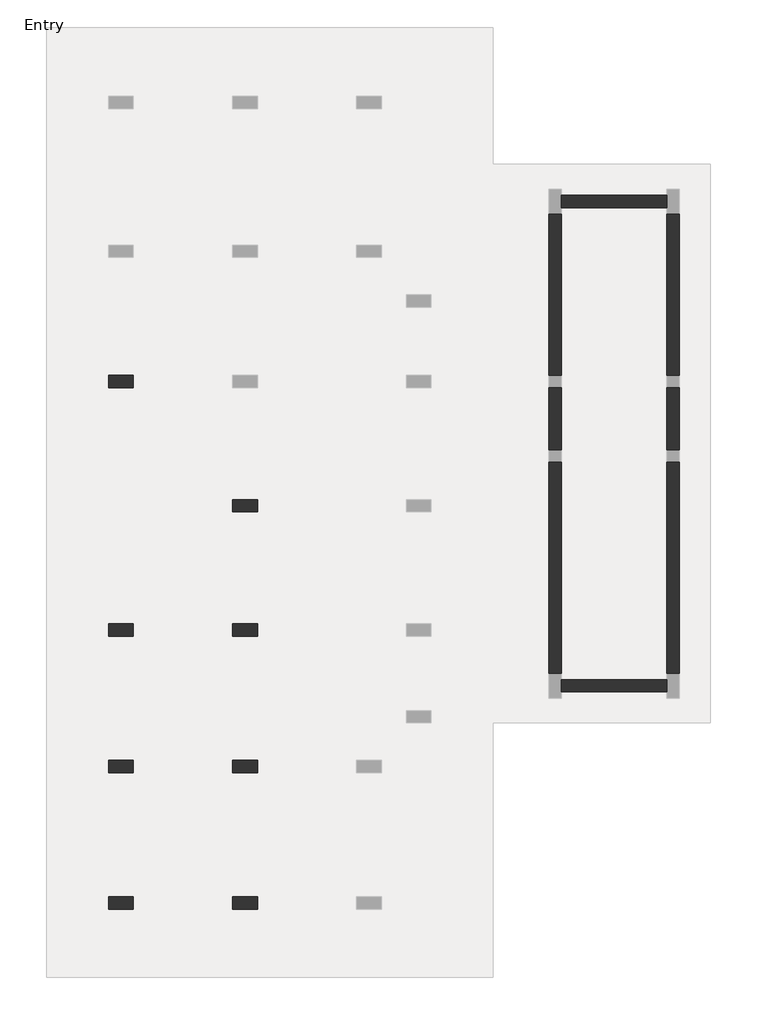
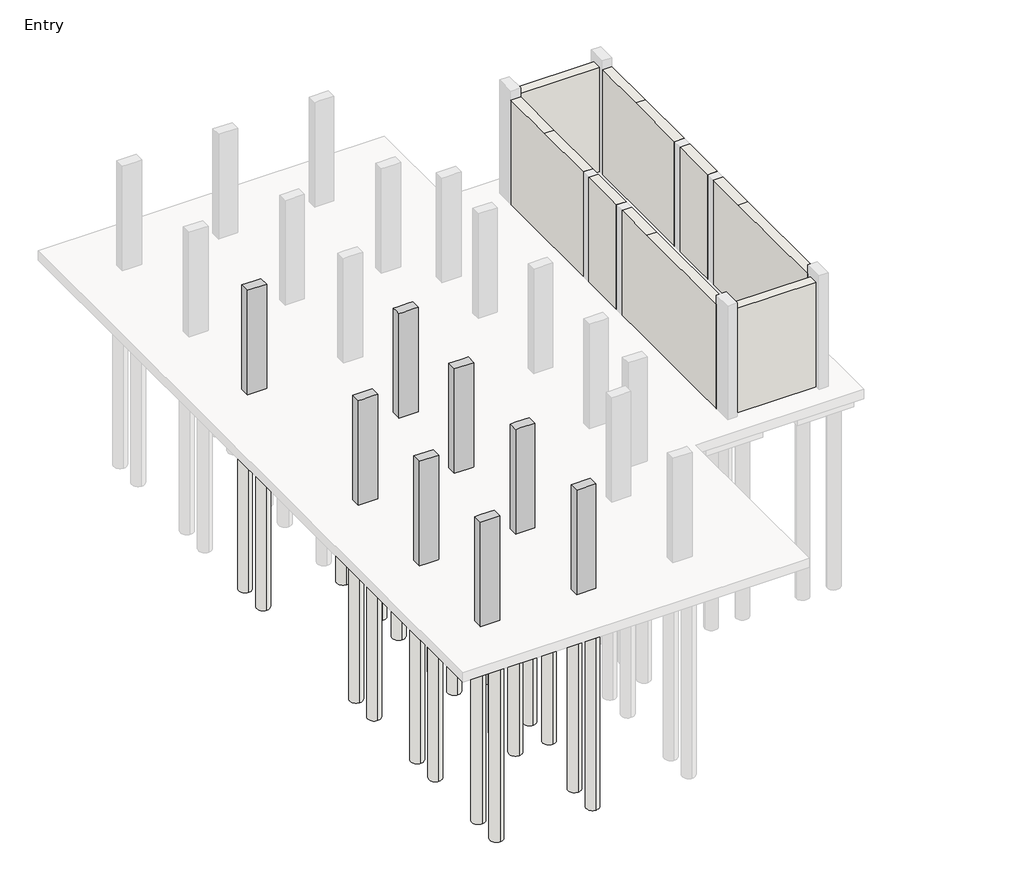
# One storey, part 1 of 3: 31 slabs, 8 columns, 8 walls.
"""IFC4 building model written with IfcOpenShell, lengths in millimetres."""

from ifc_helpers import new_model, si_unit, point, frame, frame_2d, origin, origin_with_axes, place, context, project, spatial, polyline, circle_curve, trimmed, segment, composite_curve, outline, extrude, faceted_brep, element, save

model = new_model("IFC4")

# Units and contexts
model_context = context("Model", 3, world=origin())
ifc_project = project(units=[si_unit("LENGTHUNIT", "METRE", prefix="MILLI")], contexts=[model_context])

# Site, building, storey
site = spatial("IfcSite", under=ifc_project)
building = spatial("IfcBuilding", under=site)
storey = spatial("IfcBuildingStorey", under=building, Name="Entry", Elevation=0.0)

# Columns
placement = place(None, origin())
element("IfcColumn", 1, ObjectType="Concrete-Rectangular-Column : 12 x 24", at=placement, inside=storey, context=model_context, shape_type="Brep", body=[
    faceted_brep([(-20960.8093661, 15543.5691779, 0.0), (-20351.2093661, 15543.5691779, 0.0), (-20351.2093661, 15238.7691779, 0.0), (-20960.8093661, 15238.7691779, 0.0), (-20960.8093661, 15543.5691779, 3505.2), (-20808.4093661, 15543.5691779, 3505.2), (-20503.6093661, 15543.5691779, 3505.2), (-20351.2093661, 15543.5691779, 3505.2), (-20351.2093661, 15543.5691779, 2895.6), (-20351.2093661, 15238.7691779, 3505.2), (-20351.2093661, 15238.7691779, 2895.6), (-20960.8093661, 15238.7691779, 3505.2)], [[[0, 1, 2, 3]], [[4, 5, 6, 7, 8, 1, 0]], [[7, 9, 10, 2, 1, 8]], [[9, 11, 3, 2, 10]], [[11, 4, 0, 3]], [[4, 11, 9, 7, 6, 5]]]),
])
element("IfcColumn", 2, ObjectType="Concrete-Rectangular-Column : 12 x 24", at=placement, inside=storey, context=model_context, shape_type="Brep", body=[
    faceted_brep([(-17912.8093661, 12495.5691779, 0.0), (-17303.2093661, 12495.5691779, 0.0), (-17303.2093661, 12190.7691779, 0.0), (-17912.8093661, 12190.7691779, 0.0), (-17912.8093661, 12495.5691779, 3505.2), (-17760.4093661, 12495.5691779, 3505.2), (-17455.6093661, 12495.5691779, 3505.2), (-17303.2093661, 12495.5691779, 3505.2), (-17303.2093661, 12495.5691779, 2895.6), (-17303.2093661, 12190.7691779, 3505.2), (-17303.2093661, 12190.7691779, 2895.6), (-17455.6093661, 12190.7691779, 3505.2), (-17760.4093661, 12190.7691779, 3505.2), (-17912.8093661, 12190.7691779, 3505.2), (-17912.8093661, 12343.1691779, 3505.2)], [[[0, 1, 2, 3]], [[4, 5, 6, 7, 8, 1, 0]], [[7, 9, 10, 2, 1, 8]], [[9, 11, 12, 13, 3, 2, 10]], [[13, 14, 4, 0, 3]], [[4, 14, 13, 12, 11, 9, 7, 6, 5]]]),
])
element("IfcColumn", 3, ObjectType="Concrete-Rectangular-Column : 12 x 24", at=placement, inside=storey, context=model_context, shape_type="Brep", body=[
    faceted_brep([(-20960.8093661, 9447.5691779, 0.0), (-20351.2093661, 9447.5691779, 0.0), (-20351.2093661, 9142.7691779, 0.0), (-20960.8093661, 9142.7691779, 0.0), (-20960.8093661, 9447.5691779, 3505.2), (-20351.2093661, 9447.5691779, 3505.2), (-20351.2093661, 9447.5691779, 2895.6), (-20351.2093661, 9142.7691779, 3505.2), (-20351.2093661, 9142.7691779, 2895.6), (-20503.6093661, 9142.7691779, 3505.2), (-20808.4093661, 9142.7691779, 3505.2), (-20960.8093661, 9142.7691779, 3505.2)], [[[0, 1, 2, 3]], [[4, 5, 6, 1, 0]], [[5, 7, 8, 2, 1, 6]], [[7, 9, 10, 11, 3, 2, 8]], [[11, 4, 0, 3]], [[4, 11, 10, 9, 7, 5]]]),
])
element("IfcColumn", 4, ObjectType="Concrete-Rectangular-Column : 12 x 24", at=placement, inside=storey, context=model_context, shape_type="Brep", body=[
    faceted_brep([(-17912.8093661, 9447.5691779, 0.0), (-17303.2093661, 9447.5691779, 0.0), (-17303.2093661, 9142.7691779, 0.0), (-17912.8093661, 9142.7691779, 0.0), (-17912.8093661, 9447.5691779, 3505.2), (-17760.4093661, 9447.5691779, 3505.2), (-17455.6093661, 9447.5691779, 3505.2), (-17303.2093661, 9447.5691779, 3505.2), (-17303.2093661, 9447.5691779, 2895.6), (-17912.8093661, 9447.5691779, 2895.6), (-17303.2093661, 9142.7691779, 3505.2), (-17303.2093661, 9142.7691779, 2895.6), (-17455.6093661, 9142.7691779, 3505.2), (-17760.4093661, 9142.7691779, 3505.2), (-17912.8093661, 9142.7691779, 3505.2), (-17912.8093661, 9142.7691779, 2895.6)], [[[0, 1, 2, 3]], [[4, 5, 6, 7, 8, 1, 0, 9]], [[7, 10, 11, 2, 1, 8]], [[10, 12, 13, 14, 15, 3, 2, 11]], [[14, 4, 9, 0, 3, 15]], [[4, 14, 13, 12, 10, 7, 6, 5]]]),
])
element("IfcColumn", 5, ObjectType="Concrete-Rectangular-Column : 12 x 24", at=placement, inside=storey, context=model_context, shape_type="Brep", body=[
    faceted_brep([(-20960.8093661, 2741.9691779, 0.0), (-20351.2093661, 2741.9691779, 0.0), (-20351.2093661, 2437.1691779, 0.0), (-20960.8093661, 2437.1691779, 0.0), (-20960.8093661, 2741.9691779, 3505.2), (-20808.4093661, 2741.9691779, 3505.2), (-20503.6093661, 2741.9691779, 3505.2), (-20351.2093661, 2741.9691779, 3505.2), (-20351.2093661, 2741.9691779, 2895.6), (-20351.2093661, 2437.1691779, 3505.2), (-20351.2093661, 2437.1691779, 2895.6), (-20960.8093661, 2437.1691779, 3505.2)], [[[0, 1, 2, 3]], [[4, 5, 6, 7, 8, 1, 0]], [[7, 9, 10, 2, 1, 8]], [[9, 11, 3, 2, 10]], [[11, 4, 0, 3]], [[4, 11, 9, 7, 6, 5]]]),
])
element("IfcColumn", 6, ObjectType="Concrete-Rectangular-Column : 12 x 24", at=placement, inside=storey, context=model_context, shape_type="Brep", body=[
    faceted_brep([(-17912.8093661, 2741.9691779, 0.0), (-17303.2093661, 2741.9691779, 0.0), (-17303.2093661, 2437.1691779, 0.0), (-17912.8093661, 2437.1691779, 0.0), (-17912.8093661, 2741.9691779, 3505.2), (-17760.4093661, 2741.9691779, 3505.2), (-17455.6093661, 2741.9691779, 3505.2), (-17303.2093661, 2741.9691779, 3505.2), (-17303.2093661, 2741.9691779, 2895.6), (-17912.8093661, 2741.9691779, 2895.6), (-17303.2093661, 2437.1691779, 3505.2), (-17303.2093661, 2437.1691779, 2895.6), (-17912.8093661, 2437.1691779, 3505.2), (-17912.8093661, 2437.1691779, 2895.6)], [[[0, 1, 2, 3]], [[4, 5, 6, 7, 8, 1, 0, 9]], [[7, 10, 11, 2, 1, 8]], [[10, 12, 13, 3, 2, 11]], [[12, 4, 9, 0, 3, 13]], [[4, 12, 10, 7, 6, 5]]]),
])
element("IfcColumn", 7, ObjectType="Concrete-Rectangular-Column : 12 x 24", at=placement, inside=storey, context=model_context, shape_type="Brep", body=[
    faceted_brep([(-20960.8093661, 6094.7691779, 0.0), (-20351.2093661, 6094.7691779, 0.0), (-20351.2093661, 5789.9691779, 0.0), (-20960.8093661, 5789.9691779, 0.0), (-20960.8093661, 6094.7691779, 3505.2), (-20808.4093661, 6094.7691779, 3505.2), (-20503.6093661, 6094.7691779, 3505.2), (-20351.2093661, 6094.7691779, 3505.2), (-20351.2093661, 6094.7691779, 2895.6), (-20351.2093661, 5789.9691779, 3505.2), (-20351.2093661, 5789.9691779, 2895.6), (-20503.6093661, 5789.9691779, 3505.2), (-20808.4093661, 5789.9691779, 3505.2), (-20960.8093661, 5789.9691779, 3505.2)], [[[0, 1, 2, 3]], [[4, 5, 6, 7, 8, 1, 0]], [[7, 9, 10, 2, 1, 8]], [[9, 11, 12, 13, 3, 2, 10]], [[13, 4, 0, 3]], [[4, 13, 12, 11, 9, 7, 6, 5]]]),
])
element("IfcColumn", 8, ObjectType="Concrete-Rectangular-Column : 12 x 24", at=placement, inside=storey, context=model_context, shape_type="Brep", body=[
    faceted_brep([(-17912.8093661, 6094.7691779, 0.0), (-17303.2093661, 6094.7691779, 0.0), (-17303.2093661, 5789.9691779, 0.0), (-17912.8093661, 5789.9691779, 0.0), (-17912.8093661, 6094.7691779, 3505.2), (-17760.4093661, 6094.7691779, 3505.2), (-17455.6093661, 6094.7691779, 3505.2), (-17303.2093661, 6094.7691779, 3505.2), (-17303.2093661, 6094.7691779, 2895.6), (-17912.8093661, 6094.7691779, 2895.6), (-17303.2093661, 5789.9691779, 3505.2), (-17303.2093661, 5789.9691779, 2895.6), (-17455.6093661, 5789.9691779, 3505.2), (-17760.4093661, 5789.9691779, 3505.2), (-17912.8093661, 5789.9691779, 3505.2), (-17912.8093661, 5789.9691779, 2895.6)], [[[0, 1, 2, 3]], [[4, 5, 6, 7, 8, 1, 0, 9]], [[7, 10, 11, 2, 1, 8]], [[10, 12, 13, 14, 15, 3, 2, 11]], [[14, 4, 9, 0, 3, 15]], [[4, 14, 13, 12, 10, 7, 6, 5]]]),
])

# Slabs
element("IfcSlab", 9, ObjectType="Pile Cap-2 Pile : 31\"x61\"x35\"", at=placement, inside=storey, context=model_context, shape_type="SweptSolid", body=[
    extrude(outline(polyline([(-21062.4093661, 16292.8691779), (-20249.6093661, 16292.8691779), (-20249.6093661, 14489.4691779), (-21062.4093661, 14489.4691779), (-21062.4093661, 16292.8691779)])), frame((0.0, 0.0, -889.0), z_axis=(0.0, 0.0, 1.0), x_axis=(1.0, 0.0, 0.0)), (0.0, 0.0, 1.0), 584.2),
])
element("IfcSlab", 10, ObjectType="Pile Cap-2 Pile : 31\"x61\"x35\"", at=placement, inside=storey, context=model_context, shape_type="SweptSolid", body=[
    extrude(outline(polyline([(-21062.4093661, 10196.8691779), (-20249.6093661, 10196.8691779), (-20249.6093661, 8393.4691779), (-21062.4093661, 8393.4691779), (-21062.4093661, 10196.8691779)])), frame((0.0, 0.0, -889.0), z_axis=(0.0, 0.0, 1.0), x_axis=(1.0, 0.0, 0.0)), (0.0, 0.0, 1.0), 584.2),
])
element("IfcSlab", 11, ObjectType="Pile Cap-2 Pile : 31\"x61\"x35\"", at=placement, inside=storey, context=model_context, shape_type="SweptSolid", body=[
    extrude(outline(polyline([(-21062.4093661, 6844.0691779), (-20249.6093661, 6844.0691779), (-20249.6093661, 5040.6691779), (-21062.4093661, 5040.6691779), (-21062.4093661, 6844.0691779)])), frame((0.0, 0.0, -889.0), z_axis=(0.0, 0.0, 1.0), x_axis=(1.0, 0.0, 0.0)), (0.0, 0.0, 1.0), 584.2),
])
element("IfcSlab", 12, ObjectType="Pile Cap-2 Pile : 31\"x61\"x35\"", at=placement, inside=storey, context=model_context, shape_type="SweptSolid", body=[
    extrude(outline(polyline([(-21062.4093661, 3491.2691779), (-20249.6093661, 3491.2691779), (-20249.6093661, 1687.8691779), (-21062.4093661, 1687.8691779), (-21062.4093661, 3491.2691779)])), frame((0.0, 0.0, -889.0), z_axis=(0.0, 0.0, 1.0), x_axis=(1.0, 0.0, 0.0)), (0.0, 0.0, 1.0), 584.2),
])
element("IfcSlab", 13, ObjectType="Pile Cap-2 Pile : 31\"x61\"x35\"", at=placement, inside=storey, context=model_context, shape_type="SweptSolid", body=[
    extrude(outline(polyline([(-18014.4093661, 3491.2691779), (-17201.6093661, 3491.2691779), (-17201.6093661, 1687.8691779), (-18014.4093661, 1687.8691779), (-18014.4093661, 3491.2691779)])), frame((0.0, 0.0, -889.0), z_axis=(0.0, 0.0, 1.0), x_axis=(1.0, 0.0, 0.0)), (0.0, 0.0, 1.0), 584.2),
])
element("IfcSlab", 14, ObjectType="Pile Cap-4 Pile : 72\"x72\"x35\"", at=placement, inside=storey, context=model_context, shape_type="SweptSolid", body=[
    extrude(outline(polyline([(-18522.4093661, 13257.5691779), (-16693.6093661, 13257.5691779), (-16693.6093661, 11428.7691779), (-18522.4093661, 11428.7691779), (-18522.4093661, 13257.5691779)])), frame((0.0, 0.0, -889.0), z_axis=(0.0, 0.0, 1.0), x_axis=(1.0, 0.0, 0.0)), (0.0, 0.0, 1.0), 584.2),
])
element("IfcSlab", 15, ObjectType="Pile Cap-4 Pile : 72\"x72\"x35\"", at=placement, inside=storey, context=model_context, shape_type="SweptSolid", body=[
    extrude(outline(polyline([(-18522.4093661, 10209.5691779), (-16693.6093661, 10209.5691779), (-16693.6093661, 8380.7691779), (-18522.4093661, 8380.7691779), (-18522.4093661, 10209.5691779)])), frame((0.0, 0.0, -889.0), z_axis=(0.0, 0.0, 1.0), x_axis=(1.0, 0.0, 0.0)), (0.0, 0.0, 1.0), 584.2),
])
element("IfcSlab", 16, ObjectType="Pile Cap-4 Pile : 72\"x72\"x35\"", at=placement, inside=storey, context=model_context, shape_type="SweptSolid", body=[
    extrude(outline(polyline([(-18522.4093661, 6856.7691779), (-16693.6093661, 6856.7691779), (-16693.6093661, 5027.9691779), (-18522.4093661, 5027.9691779), (-18522.4093661, 6856.7691779)])), frame((0.0, 0.0, -889.0), z_axis=(0.0, 0.0, 1.0), x_axis=(1.0, 0.0, 0.0)), (0.0, 0.0, 1.0), 584.2),
])
element("IfcSlab", 17, ObjectType="Pile-Steel Pipe : 16\" Diameter", at=placement, inside=storey, context=model_context, shape_type="SweptSolid", body=[
    extrude(outline(composite_curve([segment(trimmed(circle_curve(frame_2d((-18141.4093661, 14857.7691779)), 203.2), [point((-18141.4093661, 14654.5691779))], [point((-18141.4093661, 15060.9691779))], False, "CARTESIAN"), True, "CONTINUOUS"), segment(trimmed(circle_curve(frame_2d((-18141.4093661, 14857.7691779)), 203.2), [point((-18141.4093661, 15060.9691779))], [point((-18141.4093661, 14654.5691779))], False, "CARTESIAN"), True, "CONTINUOUS")], self_intersect=False)), frame((0.0, 0.0, -6985.0), z_axis=(0.0, 0.0, 1.0), x_axis=(1.0, 0.0, 0.0)), (0.0, 0.0, 1.0), 6096.0),
])
element("IfcSlab", 18, ObjectType="Pile-Steel Pipe : 16\" Diameter", at=placement, inside=storey, context=model_context, shape_type="SweptSolid", body=[
    extrude(outline(composite_curve([segment(trimmed(circle_curve(frame_2d((-18141.4093661, 11809.7691779)), 203.2), [point((-18141.4093661, 11606.5691779))], [point((-18141.4093661, 12012.9691779))], False, "CARTESIAN"), True, "CONTINUOUS"), segment(trimmed(circle_curve(frame_2d((-18141.4093661, 11809.7691779)), 203.2), [point((-18141.4093661, 12012.9691779))], [point((-18141.4093661, 11606.5691779))], False, "CARTESIAN"), True, "CONTINUOUS")], self_intersect=False)), frame((0.0, 0.0, -6985.0), z_axis=(0.0, 0.0, 1.0), x_axis=(1.0, 0.0, 0.0)), (0.0, 0.0, 1.0), 6096.0),
])
element("IfcSlab", 19, ObjectType="Pile-Steel Pipe : 16\" Diameter", at=placement, inside=storey, context=model_context, shape_type="SweptSolid", body=[
    extrude(outline(composite_curve([segment(trimmed(circle_curve(frame_2d((-17074.6093661, 11809.7691779)), 203.2), [point((-17074.6093661, 11606.5691779))], [point((-17074.6093661, 12012.9691779))], False, "CARTESIAN"), True, "CONTINUOUS"), segment(trimmed(circle_curve(frame_2d((-17074.6093661, 11809.7691779)), 203.2), [point((-17074.6093661, 12012.9691779))], [point((-17074.6093661, 11606.5691779))], False, "CARTESIAN"), True, "CONTINUOUS")], self_intersect=False)), frame((0.0, 0.0, -6985.0), z_axis=(0.0, 0.0, 1.0), x_axis=(1.0, 0.0, 0.0)), (0.0, 0.0, 1.0), 6096.0),
])
element("IfcSlab", 20, ObjectType="Pile-Steel Pipe : 16\" Diameter", at=placement, inside=storey, context=model_context, shape_type="SweptSolid", body=[
    extrude(outline(composite_curve([segment(trimmed(circle_curve(frame_2d((-17074.6093661, 12876.5691779)), 203.2), [point((-17074.6093661, 12673.3691779))], [point((-17074.6093661, 13079.7691779))], False, "CARTESIAN"), True, "CONTINUOUS"), segment(trimmed(circle_curve(frame_2d((-17074.6093661, 12876.5691779)), 203.2), [point((-17074.6093661, 13079.7691779))], [point((-17074.6093661, 12673.3691779))], False, "CARTESIAN"), True, "CONTINUOUS")], self_intersect=False)), frame((0.0, 0.0, -6985.0), z_axis=(0.0, 0.0, 1.0), x_axis=(1.0, 0.0, 0.0)), (0.0, 0.0, 1.0), 6096.0),
])
element("IfcSlab", 21, ObjectType="Pile-Steel Pipe : 16\" Diameter", at=placement, inside=storey, context=model_context, shape_type="SweptSolid", body=[
    extrude(outline(composite_curve([segment(trimmed(circle_curve(frame_2d((-18141.4093661, 12876.5691779)), 203.2), [point((-18141.4093661, 12673.3691779))], [point((-18141.4093661, 13079.7691779))], False, "CARTESIAN"), True, "CONTINUOUS"), segment(trimmed(circle_curve(frame_2d((-18141.4093661, 12876.5691779)), 203.2), [point((-18141.4093661, 13079.7691779))], [point((-18141.4093661, 12673.3691779))], False, "CARTESIAN"), True, "CONTINUOUS")], self_intersect=False)), frame((0.0, 0.0, -6985.0), z_axis=(0.0, 0.0, 1.0), x_axis=(1.0, 0.0, 0.0)), (0.0, 0.0, 1.0), 6096.0),
])
element("IfcSlab", 22, ObjectType="Pile-Steel Pipe : 16\" Diameter", at=placement, inside=storey, context=model_context, shape_type="SweptSolid", body=[
    extrude(outline(composite_curve([segment(trimmed(circle_curve(frame_2d((-18141.4093661, 8761.7691779)), 203.2), [point((-18141.4093661, 8558.5691779))], [point((-18141.4093661, 8964.9691779))], False, "CARTESIAN"), True, "CONTINUOUS"), segment(trimmed(circle_curve(frame_2d((-18141.4093661, 8761.7691779)), 203.2), [point((-18141.4093661, 8964.9691779))], [point((-18141.4093661, 8558.5691779))], False, "CARTESIAN"), True, "CONTINUOUS")], self_intersect=False)), frame((0.0, 0.0, -6985.0), z_axis=(0.0, 0.0, 1.0), x_axis=(1.0, 0.0, 0.0)), (0.0, 0.0, 1.0), 6096.0),
])
element("IfcSlab", 23, ObjectType="Pile-Steel Pipe : 16\" Diameter", at=placement, inside=storey, context=model_context, shape_type="SweptSolid", body=[
    extrude(outline(composite_curve([segment(trimmed(circle_curve(frame_2d((-17074.6093661, 8761.7691779)), 203.2), [point((-17074.6093661, 8558.5691779))], [point((-17074.6093661, 8964.9691779))], False, "CARTESIAN"), True, "CONTINUOUS"), segment(trimmed(circle_curve(frame_2d((-17074.6093661, 8761.7691779)), 203.2), [point((-17074.6093661, 8964.9691779))], [point((-17074.6093661, 8558.5691779))], False, "CARTESIAN"), True, "CONTINUOUS")], self_intersect=False)), frame((0.0, 0.0, -6985.0), z_axis=(0.0, 0.0, 1.0), x_axis=(1.0, 0.0, 0.0)), (0.0, 0.0, 1.0), 6096.0),
])
element("IfcSlab", 24, ObjectType="Pile-Steel Pipe : 16\" Diameter", at=placement, inside=storey, context=model_context, shape_type="SweptSolid", body=[
    extrude(outline(composite_curve([segment(trimmed(circle_curve(frame_2d((-17074.6093661, 9828.5691779)), 203.2), [point((-17074.6093661, 9625.3691779))], [point((-17074.6093661, 10031.7691779))], False, "CARTESIAN"), True, "CONTINUOUS"), segment(trimmed(circle_curve(frame_2d((-17074.6093661, 9828.5691779)), 203.2), [point((-17074.6093661, 10031.7691779))], [point((-17074.6093661, 9625.3691779))], False, "CARTESIAN"), True, "CONTINUOUS")], self_intersect=False)), frame((0.0, 0.0, -6985.0), z_axis=(0.0, 0.0, 1.0), x_axis=(1.0, 0.0, 0.0)), (0.0, 0.0, 1.0), 6096.0),
])
element("IfcSlab", 25, ObjectType="Pile-Steel Pipe : 16\" Diameter", at=placement, inside=storey, context=model_context, shape_type="SweptSolid", body=[
    extrude(outline(composite_curve([segment(trimmed(circle_curve(frame_2d((-18141.4093661, 9828.5691779)), 203.2), [point((-18141.4093661, 9625.3691779))], [point((-18141.4093661, 10031.7691779))], False, "CARTESIAN"), True, "CONTINUOUS"), segment(trimmed(circle_curve(frame_2d((-18141.4093661, 9828.5691779)), 203.2), [point((-18141.4093661, 10031.7691779))], [point((-18141.4093661, 9625.3691779))], False, "CARTESIAN"), True, "CONTINUOUS")], self_intersect=False)), frame((0.0, 0.0, -6985.0), z_axis=(0.0, 0.0, 1.0), x_axis=(1.0, 0.0, 0.0)), (0.0, 0.0, 1.0), 6096.0),
])
element("IfcSlab", 26, ObjectType="Pile-Steel Pipe : 16\" Diameter", at=placement, inside=storey, context=model_context, shape_type="SweptSolid", body=[
    extrude(outline(composite_curve([segment(trimmed(circle_curve(frame_2d((-18141.4093661, 5408.9691779)), 203.2), [point((-18141.4093661, 5205.7691779))], [point((-18141.4093661, 5612.1691779))], False, "CARTESIAN"), True, "CONTINUOUS"), segment(trimmed(circle_curve(frame_2d((-18141.4093661, 5408.9691779)), 203.2), [point((-18141.4093661, 5612.1691779))], [point((-18141.4093661, 5205.7691779))], False, "CARTESIAN"), True, "CONTINUOUS")], self_intersect=False)), frame((0.0, 0.0, -6985.0), z_axis=(0.0, 0.0, 1.0), x_axis=(1.0, 0.0, 0.0)), (0.0, 0.0, 1.0), 6096.0),
])
element("IfcSlab", 27, ObjectType="Pile-Steel Pipe : 16\" Diameter", at=placement, inside=storey, context=model_context, shape_type="SweptSolid", body=[
    extrude(outline(composite_curve([segment(trimmed(circle_curve(frame_2d((-17074.6093661, 5408.9691779)), 203.2), [point((-17074.6093661, 5205.7691779))], [point((-17074.6093661, 5612.1691779))], False, "CARTESIAN"), True, "CONTINUOUS"), segment(trimmed(circle_curve(frame_2d((-17074.6093661, 5408.9691779)), 203.2), [point((-17074.6093661, 5612.1691779))], [point((-17074.6093661, 5205.7691779))], False, "CARTESIAN"), True, "CONTINUOUS")], self_intersect=False)), frame((0.0, 0.0, -6985.0), z_axis=(0.0, 0.0, 1.0), x_axis=(1.0, 0.0, 0.0)), (0.0, 0.0, 1.0), 6096.0),
])
element("IfcSlab", 28, ObjectType="Pile-Steel Pipe : 16\" Diameter", at=placement, inside=storey, context=model_context, shape_type="SweptSolid", body=[
    extrude(outline(composite_curve([segment(trimmed(circle_curve(frame_2d((-17074.6093661, 6475.7691779)), 203.2), [point((-17074.6093661, 6272.5691779))], [point((-17074.6093661, 6678.9691779))], False, "CARTESIAN"), True, "CONTINUOUS"), segment(trimmed(circle_curve(frame_2d((-17074.6093661, 6475.7691779)), 203.2), [point((-17074.6093661, 6678.9691779))], [point((-17074.6093661, 6272.5691779))], False, "CARTESIAN"), True, "CONTINUOUS")], self_intersect=False)), frame((0.0, 0.0, -6985.0), z_axis=(0.0, 0.0, 1.0), x_axis=(1.0, 0.0, 0.0)), (0.0, 0.0, 1.0), 6096.0),
])
element("IfcSlab", 29, ObjectType="Pile-Steel Pipe : 16\" Diameter", at=placement, inside=storey, context=model_context, shape_type="SweptSolid", body=[
    extrude(outline(composite_curve([segment(trimmed(circle_curve(frame_2d((-18141.4093661, 6475.7691779)), 203.2), [point((-18141.4093661, 6272.5691779))], [point((-18141.4093661, 6678.9691779))], False, "CARTESIAN"), True, "CONTINUOUS"), segment(trimmed(circle_curve(frame_2d((-18141.4093661, 6475.7691779)), 203.2), [point((-18141.4093661, 6678.9691779))], [point((-18141.4093661, 6272.5691779))], False, "CARTESIAN"), True, "CONTINUOUS")], self_intersect=False)), frame((0.0, 0.0, -6985.0), z_axis=(0.0, 0.0, 1.0), x_axis=(1.0, 0.0, 0.0)), (0.0, 0.0, 1.0), 6096.0),
])
element("IfcSlab", 30, ObjectType="Pile-Steel Pipe : 16\" Diameter", at=placement, inside=storey, context=model_context, shape_type="SweptSolid", body=[
    extrude(outline(composite_curve([segment(trimmed(circle_curve(frame_2d((-20656.0093661, 15886.4691779)), 203.2), [point((-20656.0093661, 15683.2691779))], [point((-20656.0093661, 16089.6691779))], False, "CARTESIAN"), True, "CONTINUOUS"), segment(trimmed(circle_curve(frame_2d((-20656.0093661, 15886.4691779)), 203.2), [point((-20656.0093661, 16089.6691779))], [point((-20656.0093661, 15683.2691779))], False, "CARTESIAN"), True, "CONTINUOUS")], self_intersect=False)), frame((0.0, 0.0, -6985.0), z_axis=(0.0, 0.0, 1.0), x_axis=(1.0, 0.0, 0.0)), (0.0, 0.0, 1.0), 6096.0),
])
element("IfcSlab", 31, ObjectType="Pile-Steel Pipe : 16\" Diameter", at=placement, inside=storey, context=model_context, shape_type="SweptSolid", body=[
    extrude(outline(composite_curve([segment(trimmed(circle_curve(frame_2d((-20656.0093661, 14895.8691779)), 203.2), [point((-20656.0093661, 14692.6691779))], [point((-20656.0093661, 15099.0691779))], False, "CARTESIAN"), True, "CONTINUOUS"), segment(trimmed(circle_curve(frame_2d((-20656.0093661, 14895.8691779)), 203.2), [point((-20656.0093661, 15099.0691779))], [point((-20656.0093661, 14692.6691779))], False, "CARTESIAN"), True, "CONTINUOUS")], self_intersect=False)), frame((0.0, 0.0, -6985.0), z_axis=(0.0, 0.0, 1.0), x_axis=(1.0, 0.0, 0.0)), (0.0, 0.0, 1.0), 6096.0),
])
element("IfcSlab", 32, ObjectType="Pile-Steel Pipe : 16\" Diameter", at=placement, inside=storey, context=model_context, shape_type="SweptSolid", body=[
    extrude(outline(composite_curve([segment(trimmed(circle_curve(frame_2d((-20656.0093661, 9790.4691779)), 203.2), [point((-20656.0093661, 9587.2691779))], [point((-20656.0093661, 9993.6691779))], False, "CARTESIAN"), True, "CONTINUOUS"), segment(trimmed(circle_curve(frame_2d((-20656.0093661, 9790.4691779)), 203.2), [point((-20656.0093661, 9993.6691779))], [point((-20656.0093661, 9587.2691779))], False, "CARTESIAN"), True, "CONTINUOUS")], self_intersect=False)), frame((0.0, 0.0, -6985.0), z_axis=(0.0, 0.0, 1.0), x_axis=(1.0, 0.0, 0.0)), (0.0, 0.0, 1.0), 6096.0),
])
element("IfcSlab", 33, ObjectType="Pile-Steel Pipe : 16\" Diameter", at=placement, inside=storey, context=model_context, shape_type="SweptSolid", body=[
    extrude(outline(composite_curve([segment(trimmed(circle_curve(frame_2d((-20656.0093661, 8799.8691779)), 203.2), [point((-20656.0093661, 8596.6691779))], [point((-20656.0093661, 9003.0691779))], False, "CARTESIAN"), True, "CONTINUOUS"), segment(trimmed(circle_curve(frame_2d((-20656.0093661, 8799.8691779)), 203.2), [point((-20656.0093661, 9003.0691779))], [point((-20656.0093661, 8596.6691779))], False, "CARTESIAN"), True, "CONTINUOUS")], self_intersect=False)), frame((0.0, 0.0, -6985.0), z_axis=(0.0, 0.0, 1.0), x_axis=(1.0, 0.0, 0.0)), (0.0, 0.0, 1.0), 6096.0),
])
element("IfcSlab", 34, ObjectType="Pile-Steel Pipe : 16\" Diameter", at=placement, inside=storey, context=model_context, shape_type="SweptSolid", body=[
    extrude(outline(composite_curve([segment(trimmed(circle_curve(frame_2d((-20656.0093661, 6437.6691779)), 203.2), [point((-20656.0093661, 6234.4691779))], [point((-20656.0093661, 6640.8691779))], False, "CARTESIAN"), True, "CONTINUOUS"), segment(trimmed(circle_curve(frame_2d((-20656.0093661, 6437.6691779)), 203.2), [point((-20656.0093661, 6640.8691779))], [point((-20656.0093661, 6234.4691779))], False, "CARTESIAN"), True, "CONTINUOUS")], self_intersect=False)), frame((0.0, 0.0, -6985.0), z_axis=(0.0, 0.0, 1.0), x_axis=(1.0, 0.0, 0.0)), (0.0, 0.0, 1.0), 6096.0),
])
element("IfcSlab", 35, ObjectType="Pile-Steel Pipe : 16\" Diameter", at=placement, inside=storey, context=model_context, shape_type="SweptSolid", body=[
    extrude(outline(composite_curve([segment(trimmed(circle_curve(frame_2d((-20656.0093661, 5447.0691779)), 203.2), [point((-20656.0093661, 5243.8691779))], [point((-20656.0093661, 5650.2691779))], False, "CARTESIAN"), True, "CONTINUOUS"), segment(trimmed(circle_curve(frame_2d((-20656.0093661, 5447.0691779)), 203.2), [point((-20656.0093661, 5650.2691779))], [point((-20656.0093661, 5243.8691779))], False, "CARTESIAN"), True, "CONTINUOUS")], self_intersect=False)), frame((0.0, 0.0, -6985.0), z_axis=(0.0, 0.0, 1.0), x_axis=(1.0, 0.0, 0.0)), (0.0, 0.0, 1.0), 6096.0),
])
element("IfcSlab", 36, ObjectType="Pile-Steel Pipe : 16\" Diameter", at=placement, inside=storey, context=model_context, shape_type="SweptSolid", body=[
    extrude(outline(composite_curve([segment(trimmed(circle_curve(frame_2d((-20656.0093661, 3084.8691779)), 203.2), [point((-20656.0093661, 2881.6691779))], [point((-20656.0093661, 3288.0691779))], False, "CARTESIAN"), True, "CONTINUOUS"), segment(trimmed(circle_curve(frame_2d((-20656.0093661, 3084.8691779)), 203.2), [point((-20656.0093661, 3288.0691779))], [point((-20656.0093661, 2881.6691779))], False, "CARTESIAN"), True, "CONTINUOUS")], self_intersect=False)), frame((0.0, 0.0, -6985.0), z_axis=(0.0, 0.0, 1.0), x_axis=(1.0, 0.0, 0.0)), (0.0, 0.0, 1.0), 6096.0),
])
element("IfcSlab", 37, ObjectType="Pile-Steel Pipe : 16\" Diameter", at=placement, inside=storey, context=model_context, shape_type="SweptSolid", body=[
    extrude(outline(composite_curve([segment(trimmed(circle_curve(frame_2d((-20656.0093661, 2094.2691779)), 203.2), [point((-20656.0093661, 1891.0691779))], [point((-20656.0093661, 2297.4691779))], False, "CARTESIAN"), True, "CONTINUOUS"), segment(trimmed(circle_curve(frame_2d((-20656.0093661, 2094.2691779)), 203.2), [point((-20656.0093661, 2297.4691779))], [point((-20656.0093661, 1891.0691779))], False, "CARTESIAN"), True, "CONTINUOUS")], self_intersect=False)), frame((0.0, 0.0, -6985.0), z_axis=(0.0, 0.0, 1.0), x_axis=(1.0, 0.0, 0.0)), (0.0, 0.0, 1.0), 6096.0),
])
element("IfcSlab", 38, ObjectType="Pile-Steel Pipe : 16\" Diameter", at=placement, inside=storey, context=model_context, shape_type="SweptSolid", body=[
    extrude(outline(composite_curve([segment(trimmed(circle_curve(frame_2d((-17608.0093661, 3084.8691779)), 203.2), [point((-17608.0093661, 2881.6691779))], [point((-17608.0093661, 3288.0691779))], False, "CARTESIAN"), True, "CONTINUOUS"), segment(trimmed(circle_curve(frame_2d((-17608.0093661, 3084.8691779)), 203.2), [point((-17608.0093661, 3288.0691779))], [point((-17608.0093661, 2881.6691779))], False, "CARTESIAN"), True, "CONTINUOUS")], self_intersect=False)), frame((0.0, 0.0, -6985.0), z_axis=(0.0, 0.0, 1.0), x_axis=(1.0, 0.0, 0.0)), (0.0, 0.0, 1.0), 6096.0),
])
element("IfcSlab", 39, ObjectType="Pile-Steel Pipe : 16\" Diameter", at=placement, inside=storey, context=model_context, shape_type="SweptSolid", body=[
    extrude(outline(composite_curve([segment(trimmed(circle_curve(frame_2d((-17608.0093661, 2094.2691779)), 203.2), [point((-17608.0093661, 1891.0691779))], [point((-17608.0093661, 2297.4691779))], False, "CARTESIAN"), True, "CONTINUOUS"), segment(trimmed(circle_curve(frame_2d((-17608.0093661, 2094.2691779)), 203.2), [point((-17608.0093661, 2297.4691779))], [point((-17608.0093661, 1891.0691779))], False, "CARTESIAN"), True, "CONTINUOUS")], self_intersect=False)), frame((0.0, 0.0, -6985.0), z_axis=(0.0, 0.0, 1.0), x_axis=(1.0, 0.0, 0.0)), (0.0, 0.0, 1.0), 6096.0),
])

# Walls
element("IfcWall", 40, ObjectType="Core-Shaft - 12\" Concrete", at=placement, inside=storey, context=model_context, shape_type="SweptSolid", body=[
    extrude(outline(polyline([(-7244.8093661, 19658.3691779), (-9835.6093661, 19658.3691779), (-9835.6093661, 19963.1691779), (-7244.8093661, 19963.1691779), (-7244.8093661, 19658.3691779)])), origin_with_axes(), (0.0, 0.0, 1.0), 3505.2),
])
element("IfcWall", 41, ObjectType="Core-Shaft - 12\" Concrete", at=placement, inside=storey, context=model_context, shape_type="SweptSolid", body=[
    extrude(outline(polyline([(19505.9691779, 0.0), (15543.5691779, 0.0), (15543.5691779, 3505.2), (17677.1691779, 3505.2), (19505.9691779, 3505.2), (19505.9691779, 0.0)])), frame((-7244.8093661, 0.0, 0.0), z_axis=(1.0, 0.0, 0.0), x_axis=(0.0, 1.0, 0.0)), (0.0, 0.0, 1.0), 304.8),
])
element("IfcWall", 42, ObjectType="Core-Shaft - 12\" Concrete", at=placement, inside=storey, context=model_context, shape_type="SweptSolid", body=[
    extrude(outline(polyline([(-7244.8093661, 13714.7691779), (-7244.8093661, 15238.7691779), (-6940.0093661, 15238.7691779), (-6940.0093661, 13714.7691779), (-7244.8093661, 13714.7691779)])), origin_with_axes(), (0.0, 0.0, 1.0), 3505.2),
])
element("IfcWall", 43, ObjectType="Core-Shaft - 12\" Concrete", at=placement, inside=storey, context=model_context, shape_type="SweptSolid", body=[
    extrude(outline(polyline([(13409.9691779, 0.0), (8228.3691779, 0.0), (8228.3691779, 3505.2), (12038.3691779, 3505.2), (13409.9691779, 3505.2), (13409.9691779, 0.0)])), frame((-7244.8093661, 0.0, 0.0), z_axis=(1.0, 0.0, 0.0), x_axis=(0.0, 1.0, 0.0)), (0.0, 0.0, 1.0), 304.8),
])
element("IfcWall", 44, ObjectType="Core-Shaft - 12\" Concrete", at=placement, inside=storey, context=model_context, shape_type="SweptSolid", body=[
    extrude(outline(polyline([(-7244.8093661, 7771.1691779), (-9835.6093661, 7771.1691779), (-9835.6093661, 8075.9691779), (-7244.8093661, 8075.9691779), (-7244.8093661, 7771.1691779)])), origin_with_axes(), (0.0, 0.0, 1.0), 3505.2),
])
element("IfcWall", 45, ObjectType="Core-Shaft - 12\" Concrete", at=placement, inside=storey, context=model_context, shape_type="SweptSolid", body=[
    extrude(outline(polyline([(8228.3691779, 0.0), (8228.3691779, 3505.2), (12038.3691779, 3505.2), (13409.9691779, 3505.2), (13409.9691779, 0.0), (8228.3691779, 0.0)])), frame((-10140.4093661, 0.0, 0.0), z_axis=(1.0, 0.0, 0.0), x_axis=(0.0, 1.0, 0.0)), (0.0, 0.0, 1.0), 304.8),
])
element("IfcWall", 46, ObjectType="Core-Shaft - 12\" Concrete", at=placement, inside=storey, context=model_context, shape_type="SweptSolid", body=[
    extrude(outline(polyline([(-9835.6093661, 15238.7691779), (-9835.6093661, 13714.7691779), (-10140.4093661, 13714.7691779), (-10140.4093661, 15238.7691779), (-9835.6093661, 15238.7691779)])), origin_with_axes(), (0.0, 0.0, 1.0), 3505.2),
])
element("IfcWall", 47, ObjectType="Core-Shaft - 12\" Concrete", at=placement, inside=storey, context=model_context, shape_type="SweptSolid", body=[
    extrude(outline(polyline([(15543.5691779, 0.0), (15543.5691779, 3505.2), (17677.1691779, 3505.2), (19505.9691779, 3505.2), (19505.9691779, 0.0), (15543.5691779, 0.0)])), frame((-10140.4093661, 0.0, 0.0), z_axis=(1.0, 0.0, 0.0), x_axis=(0.0, 1.0, 0.0)), (0.0, 0.0, 1.0), 304.8),
])

save(model, "model.ifc")
